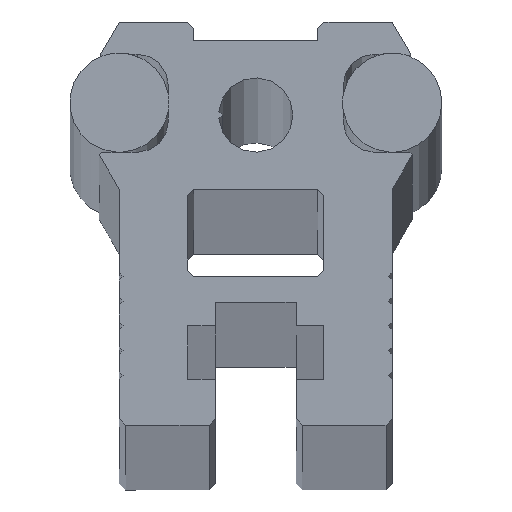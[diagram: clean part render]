
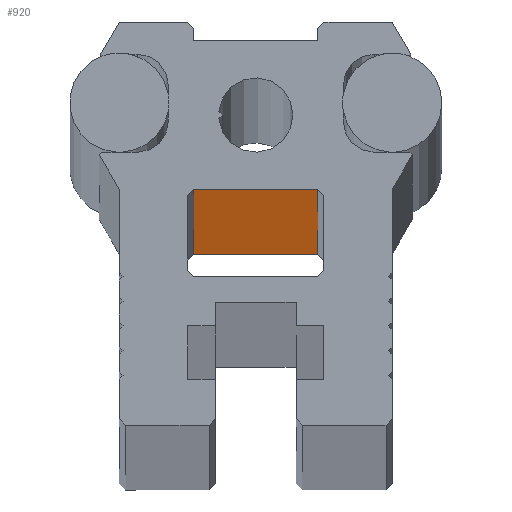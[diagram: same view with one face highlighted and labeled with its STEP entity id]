
A CAD part, top view. The second image highlights one B-rep face of the part: STEP entity #920.
In plain terms, the highlighted planar face has unit normal (0, -1, 0).
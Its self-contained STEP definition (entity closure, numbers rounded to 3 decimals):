
#496 = VERTEX_POINT ( 'NONE', #1810 ) ;
#498 = EDGE_CURVE ( 'NONE', #496, #499, #1809, .T. ) ;
#499 = VERTEX_POINT ( 'NONE', #1870 ) ;
#689 = EDGE_CURVE ( 'NONE', #496, #826, #2888, .T. ) ;
#803 = ORIENTED_EDGE ( 'NONE', *, *, #498, .F. ) ;
#804 = ORIENTED_EDGE ( 'NONE', *, *, #689, .T. ) ;
#826 = VERTEX_POINT ( 'NONE', #2876 ) ;
#888 = VERTEX_POINT ( 'NONE', #3378 ) ;
#890 = EDGE_CURVE ( 'NONE', #826, #888, #3380, .T. ) ;
#919 = EDGE_CURVE ( 'NONE', #499, #888, #3588, .T. ) ;
#920 = ADVANCED_FACE ( 'NONE', ( #3370 ), #3367, .F. ) ;
#921 = EDGE_LOOP ( 'NONE', ( #922, #934, #803, #804 ) ) ;
#922 = ORIENTED_EDGE ( 'NONE', *, *, #890, .T. ) ;
#934 = ORIENTED_EDGE ( 'NONE', *, *, #919, .F. ) ;
#1807 = VECTOR ( 'NONE', #1871, 1000. ) ;
#1808 = CARTESIAN_POINT ( 'NONE',  ( 5., 19., -2998. ) ) ;
#1809 = LINE ( 'NONE', #1808, #1807 ) ;
#1810 = CARTESIAN_POINT ( 'NONE',  ( 5., 19., -2998. ) ) ;
#1870 = CARTESIAN_POINT ( 'NONE',  ( -5., 19., -2998. ) ) ;
#1871 = DIRECTION ( 'NONE',  ( -1., 0., 0. ) ) ;
#2876 = CARTESIAN_POINT ( 'NONE',  ( 5., 19., 0. ) ) ;
#2885 = DIRECTION ( 'NONE',  ( 0., 0., 1. ) ) ;
#2886 = VECTOR ( 'NONE', #2885, 1000. ) ;
#2887 = CARTESIAN_POINT ( 'NONE',  ( 5., 19., -2998. ) ) ;
#2888 = LINE ( 'NONE', #2887, #2886 ) ;
#3359 = DIRECTION ( 'NONE',  ( 0., 0., 1. ) ) ;
#3360 = DIRECTION ( 'NONE',  ( 0., 1., 0. ) ) ;
#3362 = CARTESIAN_POINT ( 'NONE',  ( 5., 19., -2998. ) ) ;
#3363 = AXIS2_PLACEMENT_3D ( 'NONE', #3362, #3360, #3359 ) ;
#3367 = PLANE ( 'NONE',  #3363 ) ;
#3370 = FACE_OUTER_BOUND ( 'NONE', #921, .T. ) ;
#3372 = DIRECTION ( 'NONE',  ( 0., 0., 1. ) ) ;
#3374 = VECTOR ( 'NONE', #3372, 1000. ) ;
#3376 = CARTESIAN_POINT ( 'NONE',  ( -5., 19., -2998. ) ) ;
#3378 = CARTESIAN_POINT ( 'NONE',  ( -5., 19., 0. ) ) ;
#3380 = LINE ( 'NONE', #3660, #3659 ) ;
#3588 = LINE ( 'NONE', #3376, #3374 ) ;
#3657 = DIRECTION ( 'NONE',  ( -1., 0., 0. ) ) ;
#3659 = VECTOR ( 'NONE', #3657, 1000. ) ;
#3660 = CARTESIAN_POINT ( 'NONE',  ( 5., 19., 0. ) ) ;
